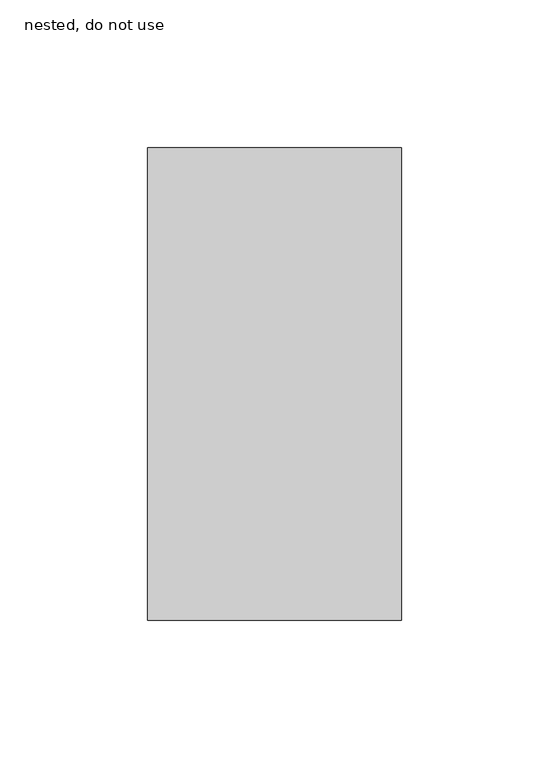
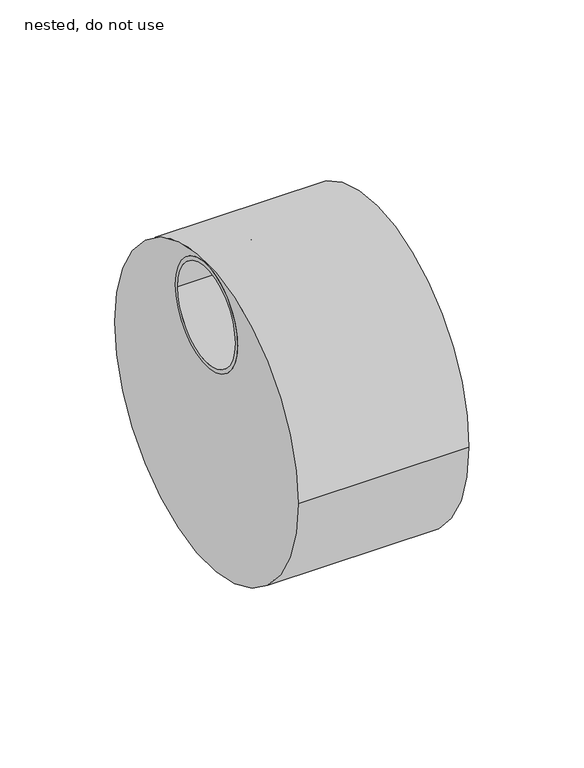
"""IFC4 building model written with IfcOpenShell, lengths in millimetres: pipe fitting geometry, NLRS_52_PIF_UN_Vacurain Flex verloop LV_SH_Dyka : nested, do not use."""

from ifc_helpers import new_model, si_unit, point, frame, frame_2d, origin, place, context, project, spatial, polyline, circle_curve, trimmed, segment, composite_curve, outline, extrude, source, transform, mapped, element, save
from ifc_brep_helpers import plane_surface, cylinder_surface, revolved_surface, advanced_brep


def nested_do_not_use_22d01ddb(model_context):
    return source(origin(), model_context, "Body", "SolidModel", [
        extrude(outline(composite_curve([segment(trimmed(circle_curve(frame_2d((0.0, 52.0)), 27.0), [point((-27.0, 52.0))], [point((27.0, 52.0))], False, "CARTESIAN"), True, "CONTINUOUS"), segment(trimmed(circle_curve(frame_2d((0.0, 52.0)), 27.0), [point((27.0, 52.0))], [point((-27.0, 52.0))], False, "CARTESIAN"), True, "CONTINUOUS")], self_intersect=False), holes=[composite_curve([segment(trimmed(circle_curve(frame_2d((0.0, 52.0)), 25.0), [point((-25.0, 52.0))], [point((25.0, 52.0))], True, "CARTESIAN"), True, "CONTINUOUS"), segment(trimmed(circle_curve(frame_2d((0.0, 52.0)), 25.0), [point((25.0, 52.0))], [point((-25.0, 52.0))], True, "CARTESIAN"), True, "CONTINUOUS")], self_intersect=False)]), frame((-71.0, 0.0, 0.0), z_axis=(1.0, 0.0, 0.0), x_axis=(0.0, 1.0, 0.0)), (0.0, 0.0, 1.0), 31.0),
        advanced_brep(
        [(-71.0, -80.0, 0.0), (-71.0, 80.0, 0.0), (-71.0, -25.0, 52.0), (-71.0, 25.0, 52.0), (15.0, -80.0, 0.0), (15.0, 80.0, 0.0), (-40.0, -25.0, 52.0), (-40.0, 25.0, 52.0)],
        [
            (0, 1, circle_curve(frame((-71.0, 0.0, 0.0), z_axis=(-1.0, 0.0, 0.0), x_axis=(0.0, 1.0, 0.0)), 80.0)),
            (1, 0, circle_curve(frame((-71.0, 0.0, 0.0), z_axis=(-1.0, 0.0, 0.0), x_axis=(0.0, 1.0, 0.0)), 80.0)),
            (2, 3, circle_curve(frame((-71.0, 0.0, 52.0), z_axis=(1.0, 0.0, 0.0), x_axis=(0.0, 1.0, 0.0)), 25.0)),
            (3, 2, circle_curve(frame((-71.0, 0.0, 52.0), z_axis=(1.0, 0.0, 0.0), x_axis=(0.0, 1.0, 0.0)), 25.0)),
            (4, 5, circle_curve(frame((15.0, 0.0, 0.0), z_axis=(1.0, 0.0, 0.0), x_axis=(0.0, 1.0, 0.0)), 80.0)),
            (5, 4, circle_curve(frame((15.0, 0.0, 0.0), z_axis=(1.0, 0.0, 0.0), x_axis=(0.0, 1.0, 0.0)), 80.0)),
            (1, 5),
            (4, 0),
            (6, 7, circle_curve(frame((-40.0, 0.0, 52.0), z_axis=(-1.0, 0.0, 0.0), x_axis=(0.0, 1.0, 0.0)), 25.0)),
            (7, 6, circle_curve(frame((-40.0, 0.0, 52.0), z_axis=(-1.0, 0.0, 0.0), x_axis=(0.0, 1.0, 0.0)), 25.0)),
            (7, 3),
            (2, 6),
        ],
        [
            plane_surface(frame((-71.0, 80.0, 0.0), z_axis=(-1.0, 0.0, 0.0), x_axis=(0.0, 0.0, -1.0))),
            plane_surface(frame((15.0, 80.0, 0.0), z_axis=(1.0, 0.0, 0.0), x_axis=(0.0, 0.0, 1.0))),
            cylinder_surface(frame((-71.0, 0.0, 0.0), z_axis=(1.0, 0.0, 0.0), x_axis=(0.0, 1.0, 0.0)), 80.0),
            plane_surface(frame((-40.0, 25.0, 52.0), z_axis=(-1.0, 0.0, 0.0), x_axis=(0.0, 0.0, 1.0))),
            revolved_surface(polyline([(-40.0, 25.0, 52.0), (-71.0, 25.0, 52.0)]), (-71.0, 0.0, 52.0), (1.0, 0.0, 0.0)),
        ],
        [
            (0, [[1, 2], [3, 4]]),
            (1, [[5, 6]]),
            (2, [[-2, 7, -5, 8]]),
            (2, [[-1, -8, -6, -7]]),
            (3, [[9, 10]]),
            (4, [[-10, 11, -3, 12]]),
            (4, [[-9, -12, -4, -11]]),
        ],
    ),
    ])


if __name__ == "__main__":
    model = new_model("IFC4")
    model_context = context("Model", 3, world=origin())
    ifc_project = project(units=[si_unit("LENGTHUNIT", "METRE", prefix="MILLI")], contexts=[model_context])
    site = spatial("IfcSite", under=ifc_project)
    building = spatial("IfcBuilding", under=site)
    placement = place(None, origin())
    nested_do_not_use_shape = nested_do_not_use_22d01ddb(model_context)
    element("IfcPipeFitting", 1, ObjectType="NLRS_52_PIF_UN_Vacurain Flex verloop LV_SH_Dyka : nested, do not use", at=placement, inside=building, context=model_context, shape_type="MappedRepresentation", body=[
        mapped(nested_do_not_use_shape, transform((0.0, 0.0, 0.0), x_axis=(1.0, 0.0, 0.0), y_axis=(0.0, 1.0, 0.0), z_axis=(0.0, 0.0, 1.0))),
    ])
    save(model, "model.ifc")
